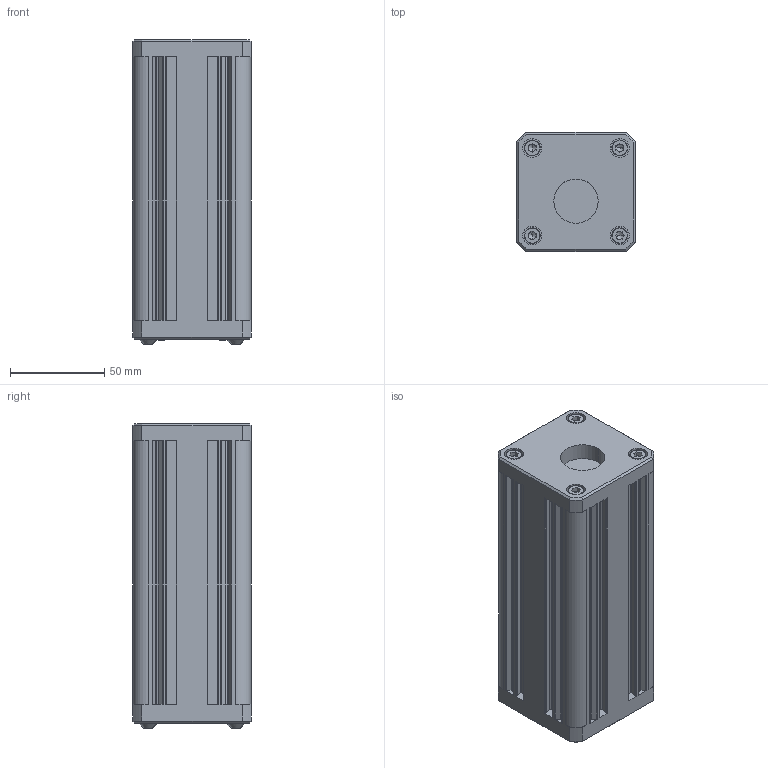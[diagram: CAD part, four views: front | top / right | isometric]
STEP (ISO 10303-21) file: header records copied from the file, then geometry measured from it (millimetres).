
FILE_DESCRIPTION (( 'STEP AP203' ), '1' );
FILE_NAME ('VNOK-A-AL-E-0050-0140.STEP', '2019-02-06T12:59:16', ( '' ), ( '' ), 'SwSTEP 2.0', 'SolidWorks 2018', '' );
FILE_SCHEMA (( 'CONFIG_CONTROL_DESIGN' ));
Length unit declared in the file: millimetre
Products named in the file (1): VNOK-A-AL-E-0050-0140
Bounding box: 63 x 63 x 161.75 mm (x, y, z)
Volume: 581559 mm3; surface area: 60802.3 mm2
Topology: 1 solids, 9 shells, 452 faces, 1126 edges, 714 vertices
Faces by surface type: plane 240, cylinder 154, bspline 30, cone 28
Entity records: 14301 total; most frequent: CARTESIAN_POINT 3343, DIRECTION 2336, ORIENTED_EDGE 2220, EDGE_CURVE 1110, AXIS2_PLACEMENT_3D 843, VERTEX_POINT 714, VECTOR 650, LINE 650
